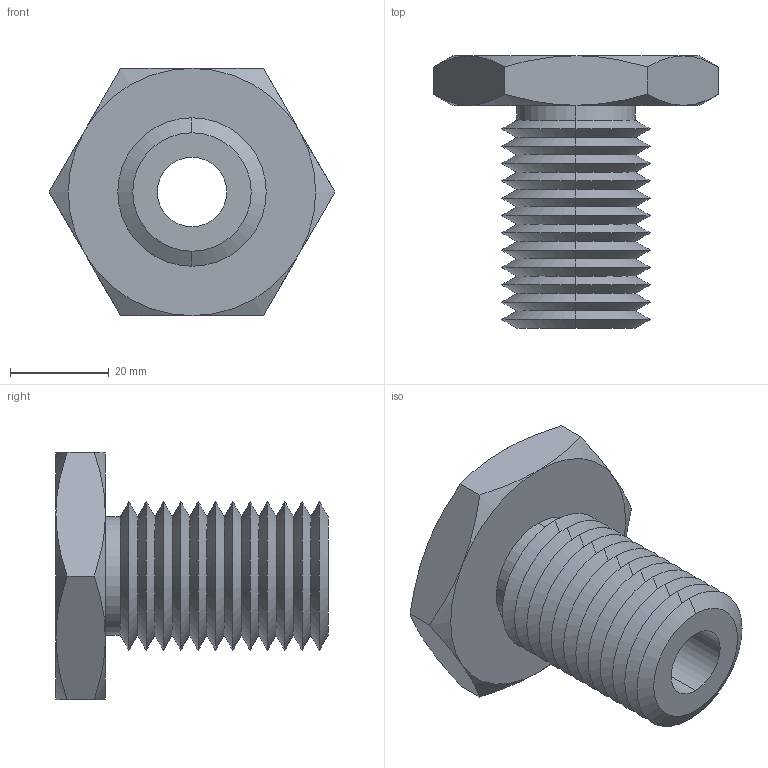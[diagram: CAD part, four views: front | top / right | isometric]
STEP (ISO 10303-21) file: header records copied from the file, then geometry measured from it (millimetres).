
FILE_DESCRIPTION (( 'STEP AP203' ), '1' );
FILE_NAME ('63302.W0030_M14x2.step', '2013-12-08T11:05:58', ( 'User' ), ( '' ), 'SwSTEP 2.0', 'SolidWorks 2009', '' );
FILE_SCHEMA (( 'CONFIG_CONTROL_DESIGN' ));
Length unit declared in the file: millimetre
Products named in the file (1): 63302.W0030_M14x2
Bounding box: 57.73 x 55 x 50 mm (x, y, z)
Volume: 38259.3 mm3; surface area: 15266.6 mm2
Topology: 1 solids, 1 shells, 75 faces, 154 edges, 82 vertices
Faces by surface type: cone 62, plane 9, cylinder 4
Entity records: 2139 total; most frequent: CARTESIAN_POINT 496, DIRECTION 352, ORIENTED_EDGE 308, EDGE_CURVE 154, AXIS2_PLACEMENT_3D 146, VERTEX_POINT 82, EDGE_LOOP 78, ADVANCED_FACE 75
